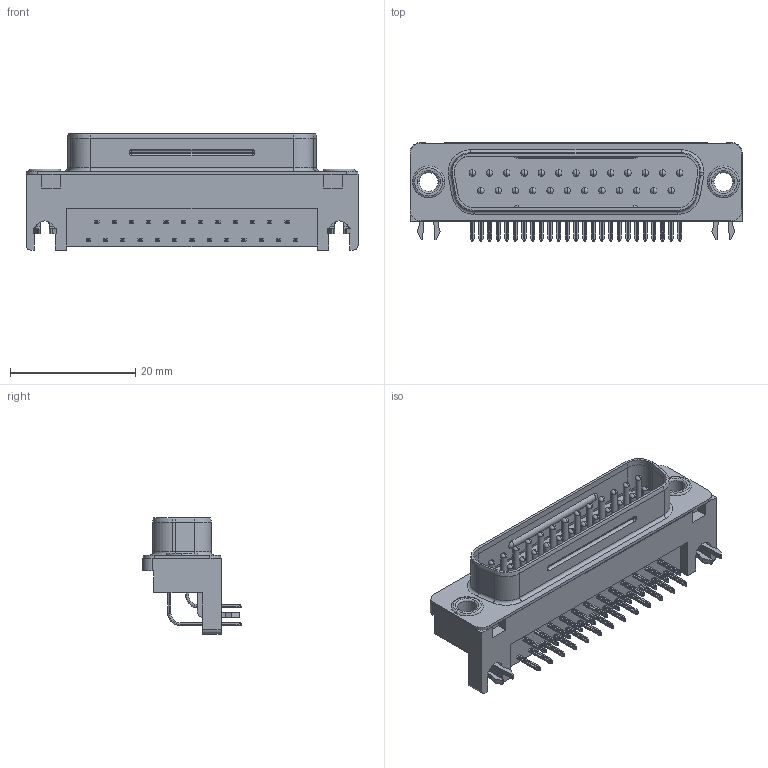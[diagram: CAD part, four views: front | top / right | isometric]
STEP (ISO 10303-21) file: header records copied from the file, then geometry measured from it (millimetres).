
FILE_DESCRIPTION (( 'STEP AP203' ), '1' );
FILE_NAME ('17LE-23250-27(D41)-FA.STEP', '2022-01-24T10:22:20', ( '' ), ( '' ), 'SwSTEP 2.0', 'SolidWorks 2018', '' );
FILE_SCHEMA (( 'CONFIG_CONTROL_DESIGN' ));
Length unit declared in the file: millimetre
Products named in the file (1): 17LE-23250-27(D41)-FA
Bounding box: 53 x 15.69 x 18.53 mm (x, y, z)
Volume: 4304 mm3; surface area: 5684.5 mm2
Topology: 1 solids, 3 shells, 1465 faces, 4026 edges, 2557 vertices
Faces by surface type: plane 674, cylinder 575, torus 152, sphere 62, bspline 2
Entity records: 47119 total; most frequent: CARTESIAN_POINT 9255, DIRECTION 8118, ORIENTED_EDGE 7920, EDGE_CURVE 3960, AXIS2_PLACEMENT_3D 2873, VERTEX_POINT 2553, VECTOR 2372, LINE 2372
